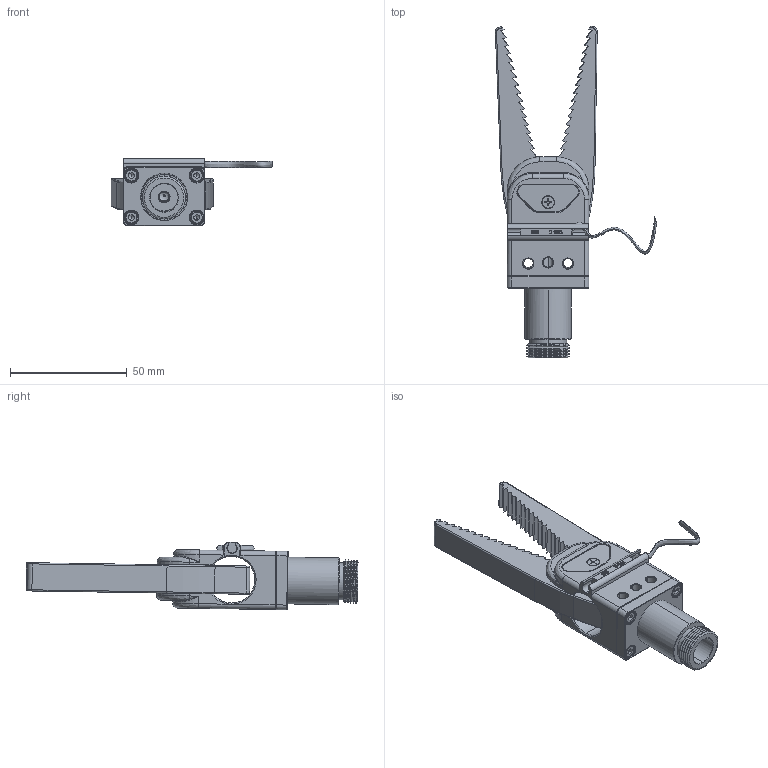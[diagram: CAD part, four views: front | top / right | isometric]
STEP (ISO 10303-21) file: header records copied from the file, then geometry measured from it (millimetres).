
FILE_DESCRIPTION (( 'STEP AP203' ), '1' );
FILE_NAME ('GR20D-20M.STEP', '2024-06-19T06:27:14', ( '微软用户' ), ( '微软中国' ), 'SwSTEP 2.0', 'SolidWorks 2018', '' );
FILE_SCHEMA (( 'CONFIG_CONTROL_DESIGN' ));
Products named in the file (1): GR20D-20M
Bounding box: 69.05 x 142.15 x 28.88 mm (x, y, z)
Volume: 52898.8 mm3; surface area: 26843.9 mm2
Topology: 6 solids, 19 shells, 1563 faces, 3573 edges, 2080 vertices
Faces by surface type: cone 552, cylinder 449, plane 409, bspline 153
Entity records: 58147 total; most frequent: CARTESIAN_POINT 24168, ORIENTED_EDGE 7110, DIRECTION 6883, EDGE_CURVE 3555, AXIS2_PLACEMENT_3D 2474, VERTEX_POINT 2078, VECTOR 1935, LINE 1935
